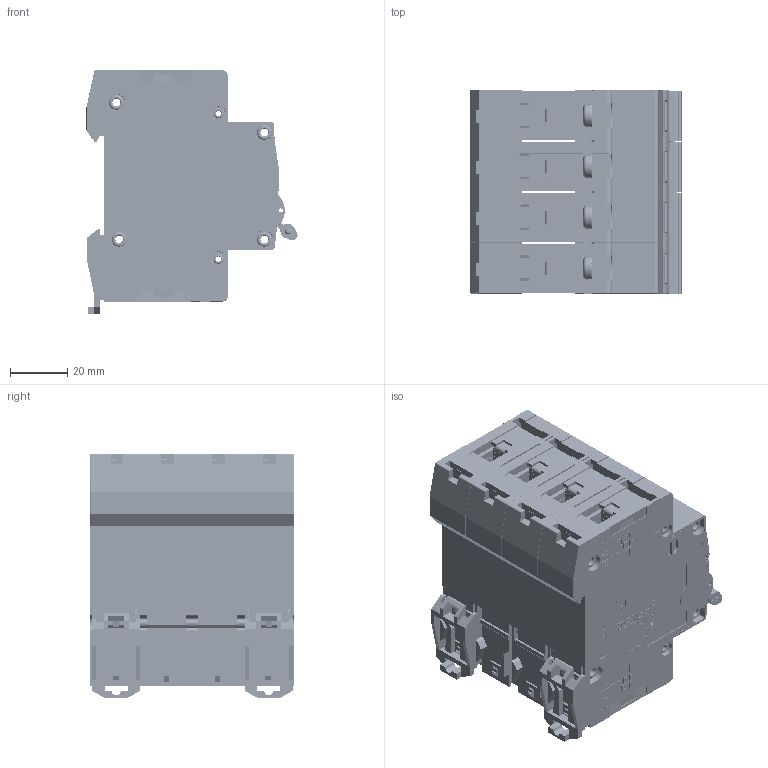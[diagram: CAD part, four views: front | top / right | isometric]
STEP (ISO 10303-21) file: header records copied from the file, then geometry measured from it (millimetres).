
FILE_DESCRIPTION (( 'STEP AP214' ), '1' );
FILE_NAME ('TDZ-4B-40.STEP', '2026-04-30T13:15:46', ( '' ), ( '' ), 'SwSTEP 2.0', 'SolidWorks 2025', '' );
FILE_SCHEMA (( 'AUTOMOTIVE_DESIGN' ));
Length unit declared in the file: millimetre
Products named in the file (1): TDZ-4B-40
Bounding box: 73.85 x 71.2 x 85.3 mm (x, y, z)
Volume: 118554.1 mm3; surface area: 187896.2 mm2
Topology: 56 solids, 56 shells, 15657 faces, 44154 edges, 29302 vertices
Faces by surface type: plane 9849, cylinder 3616, bspline 1650, torus 356, cone 186
Entity records: 791830 total; most frequent: CARTESIAN_POINT 230904, ORIENTED_EDGE 88212, DIRECTION 73916, EDGE_CURVE 44106, LINE 31026, VECTOR 31026, VERTEX_POINT 29302, AXIS2_PLACEMENT_3D 21445
